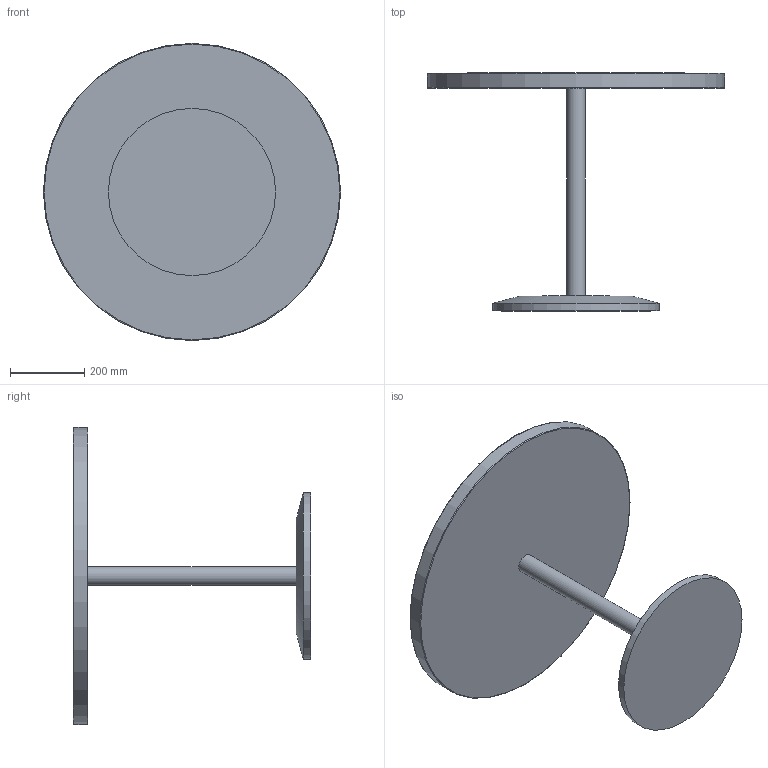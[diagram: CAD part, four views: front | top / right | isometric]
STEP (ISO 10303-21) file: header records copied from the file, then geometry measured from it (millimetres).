
FILE_DESCRIPTION(/* description */ (''),/* implementation_level */ '2;1');
FILE_NAME(/* name */ 'C:\Users\andre\Documents\SQA\Assignment\_ItemV1\STEP Files\Table.stp',/* time_stamp */ '2020-07-28T11:54:03+01:00',/* author */ ('andre'),/* organization */ (''),/* preprocessor_version */ 'ST-DEVELOPER v17.2',/* originating_system */ 'Autodesk Inventor 2019',/* authorisation */ '');
FILE_SCHEMA (('AUTOMOTIVE_DESIGN { 1 0 10303 214 3 1 1 }'));
Length unit declared in the file: millimetre
Products named in the file (4): Table; Table Base; Stand; Table Top
Assembly tree (3 placements, depth 2):
  Table
    Table Base
    Stand
    Table Top
Bounding box: 800 x 640 x 800 mm (x, y, z)
Volume: 26624637.7 mm3; surface area: 1555445.7 mm2
Topology: 3 solids, 3 shells, 16 faces, 23 edges, 15 vertices
Faces by surface type: plane 8, cylinder 5, torus 2, cone 1
Full cylindrical faces by diameter (mm): 50 x3, 450 x1, 800 x1
Entity records: 499 total; most frequent: DIRECTION 86, CARTESIAN_POINT 61, ORIENTED_EDGE 46, AXIS2_PLACEMENT_3D 40, EDGE_CURVE 23, EDGE_LOOP 18, CIRCLE 17, FACE_OUTER_BOUND 16
